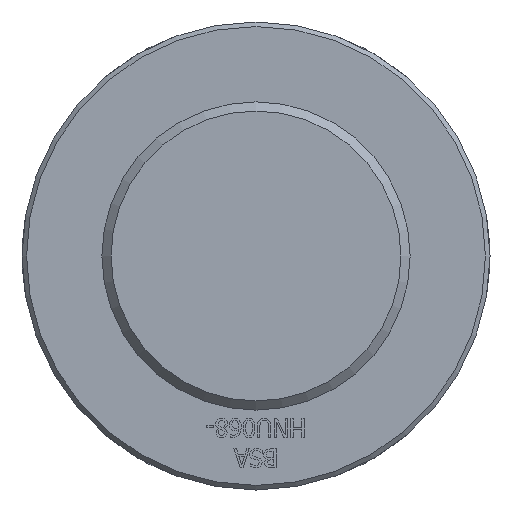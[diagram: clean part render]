
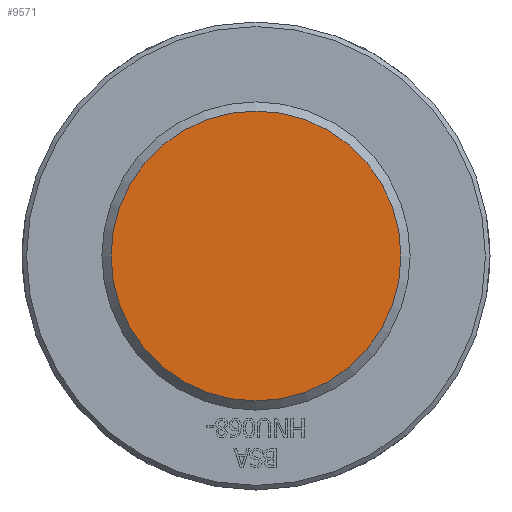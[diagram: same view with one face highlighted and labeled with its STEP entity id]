
A CAD part, front view. The second image highlights one B-rep face of the part: STEP entity #9571.
In plain terms, the highlighted planar face has unit normal (0, -1, 0) as drawn and (0, 1, 0) by its records, which use the part's own axes.
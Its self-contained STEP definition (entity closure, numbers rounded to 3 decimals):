
#61=CIRCLE('',#10086,63.5);
#225=PLANE('',#10089);
#541=FACE_OUTER_BOUND('',#1116,.T.);
#1116=EDGE_LOOP('',(#7117));
#4054=VERTEX_POINT('',#13943);
#5191=EDGE_CURVE('',#4054,#4054,#61,.T.);
#7117=ORIENTED_EDGE('',*,*,#5191,.F.);
#9571=ADVANCED_FACE('',(#541),#225,.T.);
#10086=AXIS2_PLACEMENT_3D('',#13944,#10676,#10677);
#10089=AXIS2_PLACEMENT_3D('',#13948,#10682,#10683);
#10676=DIRECTION('center_axis',(0.,-1.,0.));
#10677=DIRECTION('ref_axis',(1.,0.,0.));
#10682=DIRECTION('center_axis',(0.,1.,0.));
#10683=DIRECTION('ref_axis',(0.,0.,1.));
#13943=CARTESIAN_POINT('',(-63.5,500.,0.));
#13944=CARTESIAN_POINT('Origin',(0.,500.,0.));
#13948=CARTESIAN_POINT('Origin',(0.,500.,0.));
